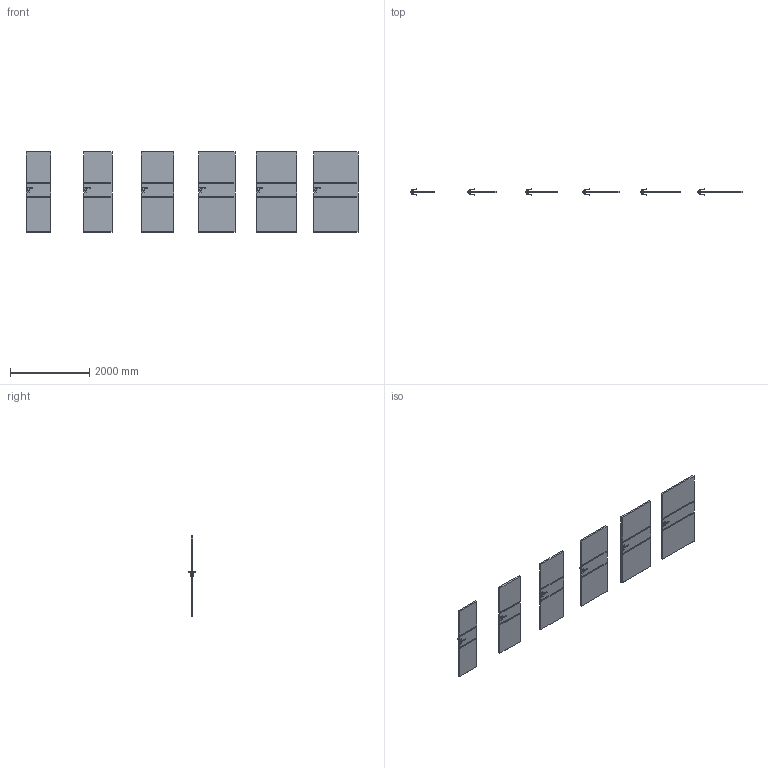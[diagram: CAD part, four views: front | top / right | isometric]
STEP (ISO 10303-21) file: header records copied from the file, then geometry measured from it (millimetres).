
FILE_DESCRIPTION(/* description */ (''),/* implementation_level */ '2;1');
FILE_NAME(/* name */ '049628_B_1-Skrzydło LINE model C.1_ polska norma _PN__ bezprzylgowe..stp',/* time_stamp */ '2024-03-19T12:59:37+01:00',/* author */ (''),/* organization */ (''),/* preprocessor_version */ 'ST-DEVELOPER v16',/* originating_system */ 'SIEMENS PLM Software NX 11.0',/* authorisation */ '');
FILE_SCHEMA (('AUTOMOTIVE_DESIGN { 1 0 10303 214 3 1 1 1 }'));
Length unit declared in the file: millimetre
Products named in the file (1): bkni0750A893l9r2
Bounding box: 8368 x 153.27 x 2017 mm (x, y, z)
Volume: 413447114.7 mm3; surface area: 23353245.9 mm2
Topology: 78 solids, 78 shells, 1536 faces, 3612 edges, 2112 vertices
Faces by surface type: plane 912, cylinder 264, bspline 192, sphere 168
Entity records: 49181 total; most frequent: CARTESIAN_POINT 15517, ORIENTED_EDGE 6888, DIRECTION 6494, EDGE_CURVE 3444, LINE 2364, VECTOR 2364, VERTEX_POINT 2112, AXIS2_PLACEMENT_3D 2065
